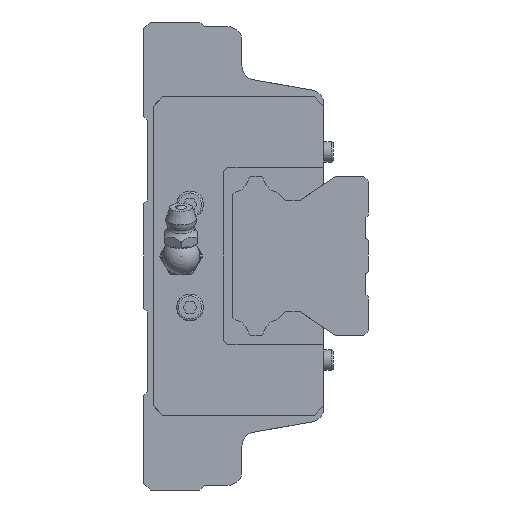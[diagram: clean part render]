
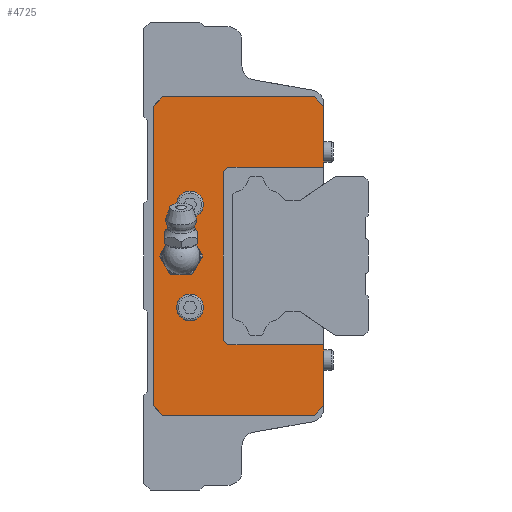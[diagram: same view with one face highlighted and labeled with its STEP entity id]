
A CAD part, left-side view. The second image highlights one B-rep face of the part: STEP entity #4725.
In plain terms, the highlighted planar face has unit normal (-1, 0, 0).
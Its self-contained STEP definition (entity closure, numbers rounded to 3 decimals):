
#227=CIRCLE('',#5131,3.);
#228=CIRCLE('',#5132,2.85);
#229=CIRCLE('',#5133,2.85);
#406=LINE('',#7023,#886);
#419=LINE('',#7050,#899);
#422=LINE('',#7055,#902);
#432=LINE('',#7075,#912);
#439=LINE('',#7089,#919);
#443=LINE('',#7096,#923);
#472=LINE('',#7151,#952);
#494=LINE('',#7203,#974);
#500=LINE('',#7220,#980);
#592=LINE('',#7543,#1072);
#593=LINE('',#7546,#1073);
#594=LINE('',#7547,#1074);
#595=LINE('',#7549,#1075);
#596=LINE('',#7551,#1076);
#886=VECTOR('',#5684,1000.);
#899=VECTOR('',#5699,1000.);
#902=VECTOR('',#5704,1000.);
#912=VECTOR('',#5718,1000.);
#919=VECTOR('',#5729,1000.);
#923=VECTOR('',#5735,1000.);
#952=VECTOR('',#5778,1000.);
#974=VECTOR('',#5816,1000.);
#980=VECTOR('',#5828,1000.);
#1072=VECTOR('',#6106,1000.);
#1073=VECTOR('',#6107,1000.);
#1074=VECTOR('',#6108,1000.);
#1075=VECTOR('',#6109,1000.);
#1076=VECTOR('',#6110,1000.);
#1994=ORIENTED_EDGE('',*,*,#2981,.T.);
#1995=ORIENTED_EDGE('',*,*,#2982,.F.);
#1996=ORIENTED_EDGE('',*,*,#2983,.F.);
#1997=ORIENTED_EDGE('',*,*,#2984,.T.);
#1998=ORIENTED_EDGE('',*,*,#2985,.T.);
#1999=ORIENTED_EDGE('',*,*,#2834,.F.);
#2000=ORIENTED_EDGE('',*,*,#2779,.F.);
#2001=ORIENTED_EDGE('',*,*,#2775,.F.);
#2002=ORIENTED_EDGE('',*,*,#2768,.F.);
#2003=ORIENTED_EDGE('',*,*,#2808,.F.);
#2004=ORIENTED_EDGE('',*,*,#2742,.F.);
#2005=ORIENTED_EDGE('',*,*,#2758,.F.);
#2006=ORIENTED_EDGE('',*,*,#2755,.F.);
#2007=ORIENTED_EDGE('',*,*,#2842,.F.);
#2008=ORIENTED_EDGE('',*,*,#2986,.T.);
#2009=ORIENTED_EDGE('',*,*,#2987,.T.);
#2010=ORIENTED_EDGE('',*,*,#2988,.T.);
#2742=EDGE_CURVE('',#3352,#3353,#406,.T.);
#2755=EDGE_CURVE('',#3365,#3366,#419,.T.);
#2758=EDGE_CURVE('',#3366,#3352,#422,.T.);
#2768=EDGE_CURVE('',#3374,#3375,#432,.T.);
#2775=EDGE_CURVE('',#3375,#3380,#439,.T.);
#2779=EDGE_CURVE('',#3380,#3382,#443,.T.);
#2808=EDGE_CURVE('',#3353,#3374,#472,.T.);
#2834=EDGE_CURVE('',#3382,#3423,#494,.T.);
#2842=EDGE_CURVE('',#3430,#3365,#500,.T.);
#2981=EDGE_CURVE('',#3526,#3526,#227,.T.);
#2982=EDGE_CURVE('',#3527,#3527,#228,.F.);
#2983=EDGE_CURVE('',#3528,#3528,#229,.F.);
#2984=EDGE_CURVE('',#3529,#3530,#592,.T.);
#2985=EDGE_CURVE('',#3530,#3423,#593,.T.);
#2986=EDGE_CURVE('',#3430,#3531,#594,.T.);
#2987=EDGE_CURVE('',#3531,#3532,#595,.T.);
#2988=EDGE_CURVE('',#3532,#3529,#596,.T.);
#3352=VERTEX_POINT('',#7022);
#3353=VERTEX_POINT('',#7024);
#3365=VERTEX_POINT('',#7049);
#3366=VERTEX_POINT('',#7051);
#3374=VERTEX_POINT('',#7074);
#3375=VERTEX_POINT('',#7076);
#3380=VERTEX_POINT('',#7090);
#3382=VERTEX_POINT('',#7097);
#3423=VERTEX_POINT('',#7204);
#3430=VERTEX_POINT('',#7219);
#3526=VERTEX_POINT('',#7538);
#3527=VERTEX_POINT('',#7540);
#3528=VERTEX_POINT('',#7542);
#3529=VERTEX_POINT('',#7544);
#3530=VERTEX_POINT('',#7545);
#3531=VERTEX_POINT('',#7548);
#3532=VERTEX_POINT('',#7550);
#3880=EDGE_LOOP('',(#1994));
#3881=EDGE_LOOP('',(#1995));
#3882=EDGE_LOOP('',(#1996));
#3883=EDGE_LOOP('',(#1997,#1998,#1999,#2000,#2001,#2002,#2003,#2004,#2005,
#2006,#2007,#2008,#2009,#2010));
#4227=FACE_BOUND('',#3880,.T.);
#4228=FACE_BOUND('',#3881,.T.);
#4229=FACE_BOUND('',#3882,.T.);
#4230=FACE_BOUND('',#3883,.T.);
#4497=PLANE('',#5130);
#4725=ADVANCED_FACE('',(#4227,#4228,#4229,#4230),#4497,.F.);
#5130=AXIS2_PLACEMENT_3D('',#7536,#6098,#6099);
#5131=AXIS2_PLACEMENT_3D('',#7537,#6100,#6101);
#5132=AXIS2_PLACEMENT_3D('',#7539,#6102,#6103);
#5133=AXIS2_PLACEMENT_3D('',#7541,#6104,#6105);
#5684=DIRECTION('',(0.,0.707,0.707));
#5699=DIRECTION('',(0.,0.707,-0.707));
#5704=DIRECTION('',(0.,1.,0.));
#5718=DIRECTION('',(0.,-0.707,0.707));
#5729=DIRECTION('',(0.,-1.,0.));
#5735=DIRECTION('',(0.,-0.707,-0.707));
#5778=DIRECTION('',(0.,0.,1.));
#5816=DIRECTION('',(0.,0.,-1.));
#5828=DIRECTION('',(0.,0.,-1.));
#6098=DIRECTION('',(1.,0.,0.));
#6099=DIRECTION('',(0.,0.,-1.));
#6100=DIRECTION('',(1.,0.,0.));
#6101=DIRECTION('',(0.,0.,-1.));
#6102=DIRECTION('',(1.,0.,0.));
#6103=DIRECTION('',(0.,0.,-1.));
#6104=DIRECTION('',(1.,0.,0.));
#6105=DIRECTION('',(0.,0.,-1.));
#6106=DIRECTION('',(0.,-0.707,0.707));
#6107=DIRECTION('',(0.,-1.,0.));
#6108=DIRECTION('',(0.,1.,0.));
#6109=DIRECTION('',(0.,0.707,0.707));
#6110=DIRECTION('',(0.,0.,1.));
#7022=CARTESIAN_POINT('',(-66.7,36.5,-34.));
#7023=CARTESIAN_POINT('',(-66.7,36.5,-34.));
#7024=CARTESIAN_POINT('',(-66.7,38.5,-32.));
#7049=CARTESIAN_POINT('',(-66.7,2.,-32.));
#7050=CARTESIAN_POINT('',(-66.7,2.,-32.));
#7051=CARTESIAN_POINT('',(-66.7,4.,-34.));
#7055=CARTESIAN_POINT('',(-66.7,0.,-34.));
#7074=CARTESIAN_POINT('',(-66.7,38.5,32.));
#7075=CARTESIAN_POINT('',(-66.7,38.5,32.));
#7076=CARTESIAN_POINT('',(-66.7,36.5,34.));
#7089=CARTESIAN_POINT('',(-66.7,40.5,34.));
#7090=CARTESIAN_POINT('',(-66.7,4.,34.));
#7096=CARTESIAN_POINT('',(-66.7,4.,34.));
#7097=CARTESIAN_POINT('',(-66.7,2.,32.));
#7151=CARTESIAN_POINT('',(-66.7,38.5,-32.));
#7203=CARTESIAN_POINT('',(-66.7,2.,32.483));
#7204=CARTESIAN_POINT('',(-66.7,2.,19.));
#7219=CARTESIAN_POINT('',(-66.7,2.,-19.));
#7220=CARTESIAN_POINT('',(-66.7,2.,32.483));
#7536=CARTESIAN_POINT('',(-66.7,0.,0.));
#7537=CARTESIAN_POINT('',(-66.7,32.5,0.));
#7538=CARTESIAN_POINT('',(-66.7,32.5,-3.));
#7539=CARTESIAN_POINT('',(-66.7,30.6,11.));
#7540=CARTESIAN_POINT('',(-66.7,30.6,8.15));
#7541=CARTESIAN_POINT('',(-66.7,30.6,-11.));
#7542=CARTESIAN_POINT('',(-66.7,30.6,-13.85));
#7543=CARTESIAN_POINT('',(-66.7,23.5,18.));
#7544=CARTESIAN_POINT('',(-66.7,23.5,18.));
#7545=CARTESIAN_POINT('',(-66.7,22.5,19.));
#7546=CARTESIAN_POINT('',(-66.7,22.5,19.));
#7547=CARTESIAN_POINT('',(-66.7,2.,-19.));
#7548=CARTESIAN_POINT('',(-66.7,22.5,-19.));
#7549=CARTESIAN_POINT('',(-66.7,22.5,-19.));
#7550=CARTESIAN_POINT('',(-66.7,23.5,-18.));
#7551=CARTESIAN_POINT('',(-66.7,23.5,-18.));
